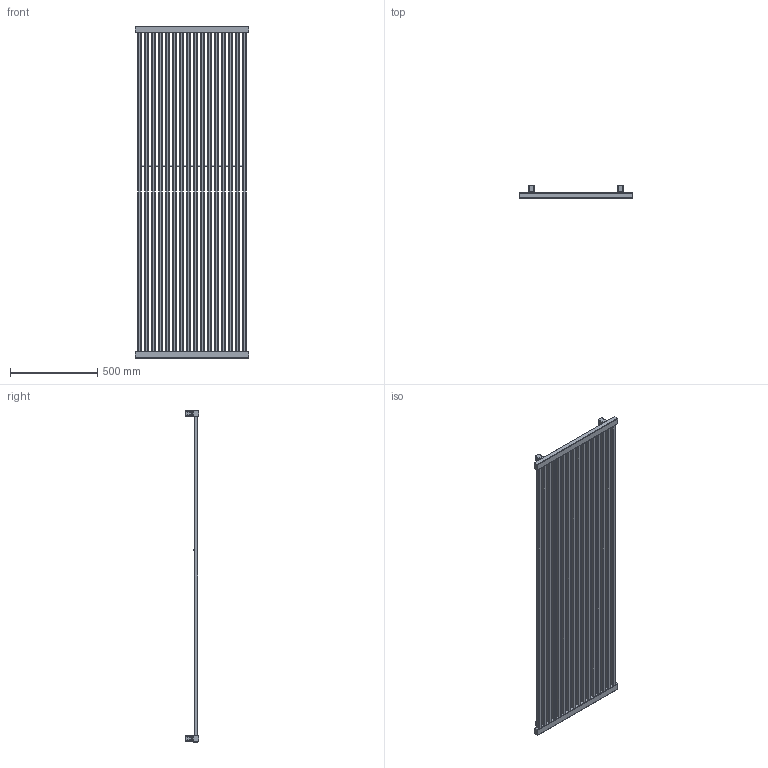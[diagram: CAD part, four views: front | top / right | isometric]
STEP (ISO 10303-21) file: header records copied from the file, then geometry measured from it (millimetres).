
FILE_DESCRIPTION((''),'2;1');
FILE_NAME('Z:\R\G\P\RGPH04 - Grzejnik Intra\Work\Inventor\Marketing\STEP\IN 19-65-ZX.stp','2012-07-25T15:49:54',('PioRo'),(''),'Autodesk Inventor 2012','Autodesk Inventor 2012','');
FILE_SCHEMA(('CONFIG_CONTROL_DESIGN'));
Length unit declared in the file: millimetre
Products named in the file (1): Część4
Bounding box: 650 x 74.5 x 1900 mm (x, y, z)
Volume: 178470.5 mm3; surface area: 2427090 mm2
Topology: 5 solids, 6 shells, 380 faces, 986 edges, 616 vertices
Faces by surface type: plane 160, cylinder 156, bspline 48, torus 16
Full cylindrical faces by diameter (mm): 5 x1, 18.631 x3
Entity records: 13326 total; most frequent: CARTESIAN_POINT 3581, ORIENTED_EDGE 1966, DIRECTION 1881, EDGE_CURVE 983, AXIS2_PLACEMENT_3D 661, VERTEX_POINT 615, VECTOR 559, LINE 559
